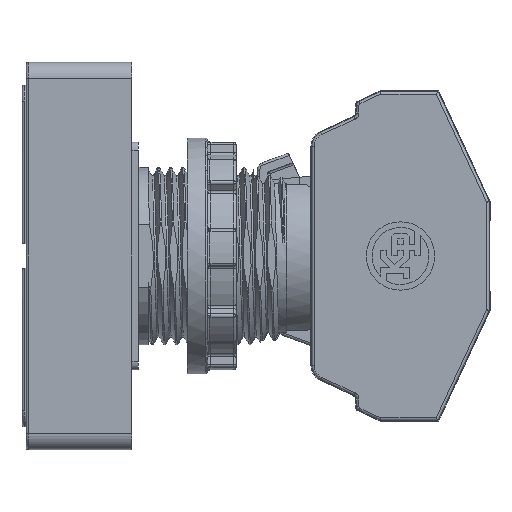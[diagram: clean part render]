
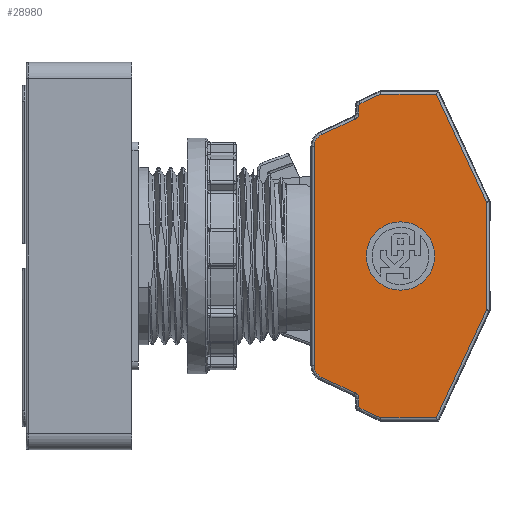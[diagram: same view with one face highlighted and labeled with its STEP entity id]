
A CAD part, front view. The second image highlights one B-rep face of the part: STEP entity #28980.
In plain terms, the highlighted planar face has unit normal (0, -1, 0) as drawn and (0, 0, 1) by its records, which use the part's own axes.
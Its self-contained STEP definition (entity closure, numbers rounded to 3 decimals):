
#24039=CARTESIAN_POINT('',(37.2,0.,14.8));
#24040=VERTEX_POINT('',#24039);
#24041=CARTESIAN_POINT('',(33.0,0.,14.8));
#24042=DIRECTION('',(0.0,0.0,-1.0));
#24043=DIRECTION('',(-1.0,0.0,0.0));
#24044=AXIS2_PLACEMENT_3D('',#24041,#24042,#24043);
#24045=CIRCLE('',#24044,4.2);
#24046=EDGE_CURVE('',#24040,#24040,#24045,.T.);
#28165=CARTESIAN_POINT('',(27.9,18.519,14.8));
#28166=VERTEX_POINT('',#28165);
#28174=CARTESIAN_POINT('',(28.015,18.7,14.8));
#28175=VERTEX_POINT('',#28174);
#28176=CARTESIAN_POINT('',(28.1,18.519,14.8));
#28177=DIRECTION('',(0.,0.,-1.0));
#28178=DIRECTION('',(-0.843,0.537,0.));
#28179=AXIS2_PLACEMENT_3D('',#28176,#28177,#28178);
#28180=CIRCLE('',#28179,0.2);
#28181=EDGE_CURVE('',#28166,#28175,#28180,.T.);
#28209=CARTESIAN_POINT('',(27.9,17.555,14.8));
#28210=VERTEX_POINT('',#28209);
#28218=CARTESIAN_POINT('',(27.9,17.555,14.8));
#28219=DIRECTION('',(0.0,1.0,0.0));
#28220=VECTOR('',#28219,0.964);
#28221=LINE('',#28218,#28220);
#28222=EDGE_CURVE('',#28210,#28166,#28221,.T.);
#28248=CARTESIAN_POINT('',(30.589,19.9,14.8));
#28249=VERTEX_POINT('',#28248);
#28250=CARTESIAN_POINT('',(28.015,18.7,14.8));
#28251=DIRECTION('',(0.906,0.423,0.));
#28252=VECTOR('',#28251,2.839);
#28253=LINE('',#28250,#28252);
#28254=EDGE_CURVE('',#28175,#28249,#28253,.T.);
#28273=CARTESIAN_POINT('',(27.438,16.83,14.8));
#28274=VERTEX_POINT('',#28273);
#28282=CARTESIAN_POINT('',(27.1,17.555,14.8));
#28283=DIRECTION('',(0.,0.,1.0));
#28284=DIRECTION('',(0.843,-0.537,0.));
#28285=AXIS2_PLACEMENT_3D('',#28282,#28283,#28284);
#28286=CIRCLE('',#28285,0.8);
#28287=EDGE_CURVE('',#28274,#28210,#28286,.T.);
#28305=CARTESIAN_POINT('',(37.403,19.9,14.8));
#28306=VERTEX_POINT('',#28305);
#28307=CARTESIAN_POINT('',(30.589,19.9,14.8));
#28308=DIRECTION('',(1.0,0.0,0.0));
#28309=VECTOR('',#28308,6.815);
#28310=LINE('',#28307,#28309);
#28311=EDGE_CURVE('',#28249,#28306,#28310,.T.);
#28339=CARTESIAN_POINT('',(23.324,14.911,14.8));
#28340=VERTEX_POINT('',#28339);
#28348=CARTESIAN_POINT('',(23.324,14.911,14.8));
#28349=DIRECTION('',(0.906,0.423,0.0));
#28350=VECTOR('',#28349,4.54);
#28351=LINE('',#28348,#28350);
#28352=EDGE_CURVE('',#28340,#28274,#28351,.T.);
#28369=CARTESIAN_POINT('',(43.6,6.611,14.8));
#28370=VERTEX_POINT('',#28369);
#28371=CARTESIAN_POINT('',(37.403,19.9,14.8));
#28372=DIRECTION('',(0.423,-0.906,0.));
#28373=VECTOR('',#28372,14.662);
#28374=LINE('',#28371,#28373);
#28375=EDGE_CURVE('',#28306,#28370,#28374,.T.);
#28401=CARTESIAN_POINT('',(22.4,13.461,14.8));
#28402=VERTEX_POINT('',#28401);
#28410=CARTESIAN_POINT('',(24.,13.461,14.8));
#28411=DIRECTION('',(0.,0.,-1.0));
#28412=DIRECTION('',(-0.843,0.537,0.));
#28413=AXIS2_PLACEMENT_3D('',#28410,#28411,#28412);
#28414=CIRCLE('',#28413,1.6);
#28415=EDGE_CURVE('',#28402,#28340,#28414,.T.);
#28433=CARTESIAN_POINT('',(43.6,-6.611,14.8));
#28434=VERTEX_POINT('',#28433);
#28435=CARTESIAN_POINT('',(43.6,6.611,14.8));
#28436=DIRECTION('',(0.0,-1.0,0.0));
#28437=VECTOR('',#28436,13.223);
#28438=LINE('',#28435,#28437);
#28439=EDGE_CURVE('',#28370,#28434,#28438,.T.);
#28465=CARTESIAN_POINT('',(22.4,-13.461,14.8));
#28466=VERTEX_POINT('',#28465);
#28474=CARTESIAN_POINT('',(22.4,-13.461,14.8));
#28475=DIRECTION('',(0.0,1.0,0.0));
#28476=VECTOR('',#28475,26.922);
#28477=LINE('',#28474,#28476);
#28478=EDGE_CURVE('',#28466,#28402,#28477,.T.);
#28490=CARTESIAN_POINT('',(37.403,-19.9,14.8));
#28491=VERTEX_POINT('',#28490);
#28492=CARTESIAN_POINT('',(43.6,-6.611,14.8));
#28493=DIRECTION('',(-0.423,-0.906,0.));
#28494=VECTOR('',#28493,14.662);
#28495=LINE('',#28492,#28494);
#28496=EDGE_CURVE('',#28434,#28491,#28495,.T.);
#28524=CARTESIAN_POINT('',(23.324,-14.911,14.8));
#28525=VERTEX_POINT('',#28524);
#28533=CARTESIAN_POINT('',(24.,-13.461,14.8));
#28534=DIRECTION('',(0.,0.,-1.0));
#28535=DIRECTION('',(-0.843,-0.537,0.));
#28536=AXIS2_PLACEMENT_3D('',#28533,#28534,#28535);
#28537=CIRCLE('',#28536,1.6);
#28538=EDGE_CURVE('',#28525,#28466,#28537,.T.);
#28556=CARTESIAN_POINT('',(30.589,-19.9,14.8));
#28557=VERTEX_POINT('',#28556);
#28558=CARTESIAN_POINT('',(37.403,-19.9,14.8));
#28559=DIRECTION('',(-1.0,0.0,0.0));
#28560=VECTOR('',#28559,6.815);
#28561=LINE('',#28558,#28560);
#28562=EDGE_CURVE('',#28491,#28557,#28561,.T.);
#28590=CARTESIAN_POINT('',(27.438,-16.83,14.8));
#28591=VERTEX_POINT('',#28590);
#28599=CARTESIAN_POINT('',(27.438,-16.83,14.8));
#28600=DIRECTION('',(-0.906,0.423,0.0));
#28601=VECTOR('',#28600,4.54);
#28602=LINE('',#28599,#28601);
#28603=EDGE_CURVE('',#28591,#28525,#28602,.T.);
#28620=CARTESIAN_POINT('',(28.015,-18.7,14.8));
#28621=VERTEX_POINT('',#28620);
#28638=CARTESIAN_POINT('',(30.589,-19.9,14.8));
#28639=DIRECTION('',(-0.906,0.423,0.0));
#28640=VECTOR('',#28639,2.839);
#28641=LINE('',#28638,#28640);
#28642=EDGE_CURVE('',#28557,#28621,#28641,.T.);
#28654=CARTESIAN_POINT('',(27.9,-17.555,14.8));
#28655=VERTEX_POINT('',#28654);
#28663=CARTESIAN_POINT('',(27.1,-17.555,14.8));
#28664=DIRECTION('',(0.,0.,1.0));
#28665=DIRECTION('',(0.843,0.537,0.));
#28666=AXIS2_PLACEMENT_3D('',#28663,#28664,#28665);
#28667=CIRCLE('',#28666,0.8);
#28668=EDGE_CURVE('',#28655,#28591,#28667,.T.);
#28704=CARTESIAN_POINT('',(27.9,-18.519,14.8));
#28705=VERTEX_POINT('',#28704);
#28723=CARTESIAN_POINT('',(28.1,-18.519,14.8));
#28724=DIRECTION('',(0.,0.,-1.0));
#28725=DIRECTION('',(-0.843,-0.537,0.));
#28726=AXIS2_PLACEMENT_3D('',#28723,#28724,#28725);
#28727=CIRCLE('',#28726,0.2);
#28728=EDGE_CURVE('',#28621,#28705,#28727,.T.);
#28746=CARTESIAN_POINT('',(27.9,-18.519,14.8));
#28747=DIRECTION('',(0.0,1.0,0.0));
#28748=VECTOR('',#28747,0.964);
#28749=LINE('',#28746,#28748);
#28750=EDGE_CURVE('',#28705,#28655,#28749,.T.);
#28952=CARTESIAN_POINT('',(32.411,0.,14.8));
#28953=DIRECTION('',(0.0,0.0,1.0));
#28954=DIRECTION('',(1.0,0.0,0.0));
#28955=AXIS2_PLACEMENT_3D('',#28952,#28953,#28954);
#28956=PLANE('',#28955);
#28957=ORIENTED_EDGE('',*,*,#28181,.F.);
#28958=ORIENTED_EDGE('',*,*,#28222,.F.);
#28959=ORIENTED_EDGE('',*,*,#28287,.F.);
#28960=ORIENTED_EDGE('',*,*,#28352,.F.);
#28961=ORIENTED_EDGE('',*,*,#28415,.F.);
#28962=ORIENTED_EDGE('',*,*,#28478,.F.);
#28963=ORIENTED_EDGE('',*,*,#28538,.F.);
#28964=ORIENTED_EDGE('',*,*,#28603,.F.);
#28965=ORIENTED_EDGE('',*,*,#28668,.F.);
#28966=ORIENTED_EDGE('',*,*,#28750,.F.);
#28967=ORIENTED_EDGE('',*,*,#28728,.F.);
#28968=ORIENTED_EDGE('',*,*,#28642,.F.);
#28969=ORIENTED_EDGE('',*,*,#28562,.F.);
#28970=ORIENTED_EDGE('',*,*,#28496,.F.);
#28971=ORIENTED_EDGE('',*,*,#28439,.F.);
#28972=ORIENTED_EDGE('',*,*,#28375,.F.);
#28973=ORIENTED_EDGE('',*,*,#28311,.F.);
#28974=ORIENTED_EDGE('',*,*,#28254,.F.);
#28975=EDGE_LOOP('',(#28957,#28958,#28959,#28960,#28961,#28962,#28963,#28964,#28965,#28966,#28967,#28968,#28969,#28970,#28971,#28972,#28973,#28974));
#28976=FACE_OUTER_BOUND('',#28975,.T.);
#28977=ORIENTED_EDGE('',*,*,#24046,.T.);
#28978=EDGE_LOOP('',(#28977));
#28979=FACE_BOUND('',#28978,.T.);
#28980=ADVANCED_FACE('',(#28976,#28979),#28956,.T.);
